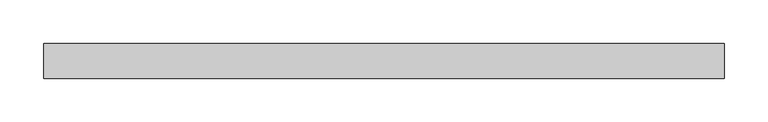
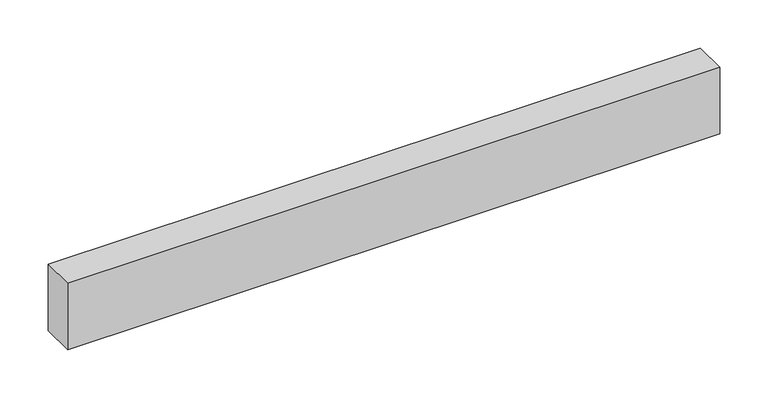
"""IFC4 building model written with IfcOpenShell, lengths in millimetres: plate geometry, Panneau système vide : Epaiss. 4cm."""

from ifc_helpers import new_model, si_unit, origin, origin_with_axes, place, context, project, spatial, polyline, outline, extrude, source, transform, mapped, element, save


def plate_1566a5e2(model_context):
    return source(origin(), model_context, "Body", "SweptSolid", [
        extrude(outline(polyline([(390.15, -20.0), (-390.15, -20.0), (-390.15, 20.0), (390.15, 20.0), (390.15, -20.0)])), origin_with_axes(), (0.0, 0.0, 1.0), 83.8416167),
    ])


if __name__ == "__main__":
    model = new_model("IFC4")
    model_context = context("Model", 3, world=origin())
    ifc_project = project(units=[si_unit("LENGTHUNIT", "METRE", prefix="MILLI")], contexts=[model_context])
    site = spatial("IfcSite", under=ifc_project)
    building = spatial("IfcBuilding", under=site)
    placement = place(None, origin())
    plate_shape = plate_1566a5e2(model_context)
    element("IfcPlate", 1, ObjectType="Panneau système vide : Epaiss. 4cm", at=placement, inside=building, context=model_context, shape_type="MappedRepresentation", body=[
        mapped(plate_shape, transform((0.0, 0.0, 0.0), x_axis=(1.0, 0.0, 0.0), y_axis=(0.0, 1.0, 0.0), z_axis=(0.0, 0.0, 1.0))),
    ])
    save(model, "model.ifc")
